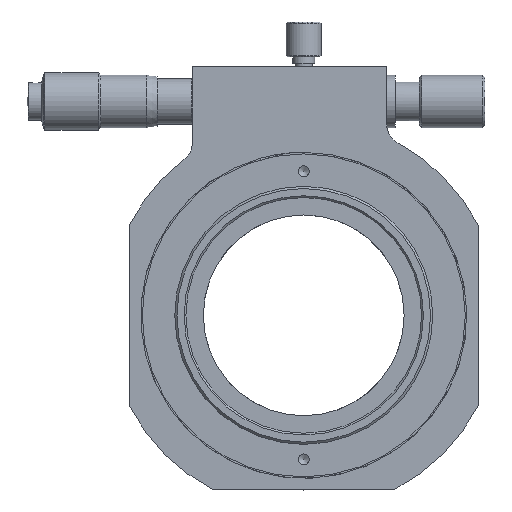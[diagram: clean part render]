
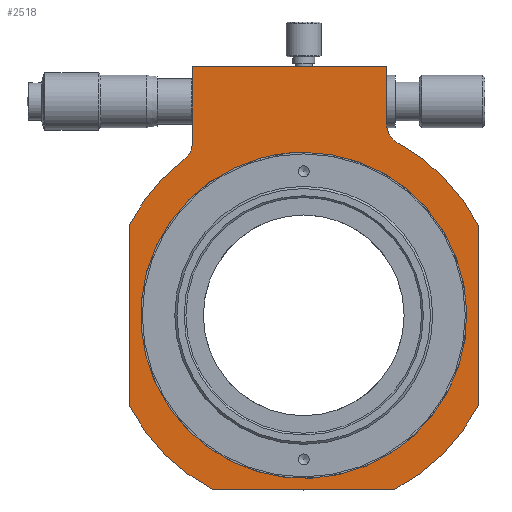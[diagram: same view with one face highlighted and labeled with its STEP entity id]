
A CAD part, left-side view. The second image highlights one B-rep face of the part: STEP entity #2518.
In plain terms, the highlighted planar face has unit normal (-1, 0, 0).
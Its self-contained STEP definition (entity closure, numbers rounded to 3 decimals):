
#260=LINE('',#3939,#424);
#265=LINE('',#3953,#429);
#283=LINE('',#4218,#447);
#286=LINE('',#4240,#450);
#288=LINE('',#4247,#452);
#292=LINE('',#4258,#456);
#424=VECTOR('',#3068,13.137);
#429=VECTOR('',#3079,41.231);
#447=VECTOR('',#3177,41.231);
#450=VECTOR('',#3192,44.5);
#452=VECTOR('',#3200,41.231);
#456=VECTOR('',#3214,17.38);
#608=FACE_BOUND('',#746,.T.);
#609=FACE_BOUND('',#747,.T.);
#746=EDGE_LOOP('',(#1975));
#747=EDGE_LOOP('',(#1976,#1977,#1978,#1979,#1980,#1981,#1982,#1983,#1984,
#1985,#1986,#1987));
#973=CIRCLE('',#2739,37.35);
#982=CIRCLE('',#2751,45.);
#983=CIRCLE('',#2754,45.);
#984=CIRCLE('',#2756,5.);
#986=CIRCLE('',#2760,45.);
#987=CIRCLE('',#2763,45.);
#988=CIRCLE('',#2765,5.);
#1156=VERTEX_POINT('',#3936);
#1157=VERTEX_POINT('',#3938);
#1161=VERTEX_POINT('',#3947);
#1163=VERTEX_POINT('',#3951);
#1192=VERTEX_POINT('',#4184);
#1203=VERTEX_POINT('',#4212);
#1204=VERTEX_POINT('',#4216);
#1205=VERTEX_POINT('',#4220);
#1207=VERTEX_POINT('',#4238);
#1208=VERTEX_POINT('',#4242);
#1209=VERTEX_POINT('',#4246);
#1210=VERTEX_POINT('',#4250);
#1211=VERTEX_POINT('',#4254);
#1462=EDGE_CURVE('',#1156,#1157,#260,.T.);
#1469=EDGE_CURVE('',#1163,#1161,#265,.T.);
#1508=EDGE_CURVE('',#1192,#1192,#973,.T.);
#1523=EDGE_CURVE('',#1203,#1163,#982,.T.);
#1525=EDGE_CURVE('',#1204,#1203,#283,.T.);
#1527=EDGE_CURVE('',#1205,#1204,#983,.T.);
#1529=EDGE_CURVE('',#1157,#1205,#984,.T.);
#1532=EDGE_CURVE('',#1207,#1156,#286,.T.);
#1533=EDGE_CURVE('',#1161,#1208,#986,.T.);
#1535=EDGE_CURVE('',#1208,#1209,#288,.T.);
#1537=EDGE_CURVE('',#1209,#1210,#987,.T.);
#1539=EDGE_CURVE('',#1210,#1211,#988,.T.);
#1541=EDGE_CURVE('',#1211,#1207,#292,.T.);
#1975=ORIENTED_EDGE('',*,*,#1508,.T.);
#1976=ORIENTED_EDGE('',*,*,#1462,.F.);
#1977=ORIENTED_EDGE('',*,*,#1532,.F.);
#1978=ORIENTED_EDGE('',*,*,#1541,.F.);
#1979=ORIENTED_EDGE('',*,*,#1539,.F.);
#1980=ORIENTED_EDGE('',*,*,#1537,.F.);
#1981=ORIENTED_EDGE('',*,*,#1535,.F.);
#1982=ORIENTED_EDGE('',*,*,#1533,.F.);
#1983=ORIENTED_EDGE('',*,*,#1469,.F.);
#1984=ORIENTED_EDGE('',*,*,#1523,.F.);
#1985=ORIENTED_EDGE('',*,*,#1525,.F.);
#1986=ORIENTED_EDGE('',*,*,#1527,.F.);
#1987=ORIENTED_EDGE('',*,*,#1529,.F.);
#2439=PLANE('',#2767);
#2518=ADVANCED_FACE('',(#608,#609),#2439,.F.);
#2739=AXIS2_PLACEMENT_3D('',#4185,#3142,#3143);
#2751=AXIS2_PLACEMENT_3D('',#4214,#3172,#3173);
#2754=AXIS2_PLACEMENT_3D('',#4222,#3181,#3182);
#2756=AXIS2_PLACEMENT_3D('',#4234,#3185,#3186);
#2760=AXIS2_PLACEMENT_3D('',#4243,#3195,#3196);
#2763=AXIS2_PLACEMENT_3D('',#4251,#3204,#3205);
#2765=AXIS2_PLACEMENT_3D('',#4255,#3209,#3210);
#2767=AXIS2_PLACEMENT_3D('',#4259,#3215,#3216);
#3068=DIRECTION('',(0.,0.,-1.));
#3079=DIRECTION('',(0.,1.,0.));
#3142=DIRECTION('center_axis',(1.,0.,0.));
#3143=DIRECTION('ref_axis',(0.,0.,-1.));
#3172=DIRECTION('center_axis',(1.,0.,0.));
#3173=DIRECTION('ref_axis',(0.,0.889,0.458));
#3177=DIRECTION('',(0.,0.,-1.));
#3181=DIRECTION('center_axis',(1.,0.,0.));
#3182=DIRECTION('ref_axis',(0.,0.48,-0.877));
#3185=DIRECTION('center_axis',(-1.,0.,0.));
#3186=DIRECTION('ref_axis',(0.,0.48,-0.877));
#3192=DIRECTION('',(0.,-1.,0.));
#3195=DIRECTION('center_axis',(1.,0.,0.));
#3196=DIRECTION('ref_axis',(0.,-0.458,0.889));
#3200=DIRECTION('',(0.,0.,1.));
#3204=DIRECTION('center_axis',(1.,0.,0.));
#3205=DIRECTION('ref_axis',(0.,-0.889,-0.458));
#3209=DIRECTION('center_axis',(-1.,0.,0.));
#3210=DIRECTION('ref_axis',(0.,-1.,0.));
#3214=DIRECTION('',(0.,0.,1.));
#3215=DIRECTION('center_axis',(1.,0.,0.));
#3216=DIRECTION('ref_axis',(0.,0.,-1.));
#3936=CARTESIAN_POINT('',(-14.,-19.,57.));
#3938=CARTESIAN_POINT('',(-14.,-19.,43.863));
#3939=CARTESIAN_POINT('',(-14.,-19.,43.863));
#3947=CARTESIAN_POINT('',(-14.,20.616,-40.));
#3951=CARTESIAN_POINT('',(-14.,-20.616,-40.));
#3953=CARTESIAN_POINT('',(-14.,20.616,-40.));
#4184=CARTESIAN_POINT('',(-14.,0.,37.35));
#4185=CARTESIAN_POINT('Origin',(-14.,0.,0.));
#4212=CARTESIAN_POINT('',(-14.,-40.,-20.616));
#4214=CARTESIAN_POINT('Origin',(-14.,0.,0.));
#4216=CARTESIAN_POINT('',(-14.,-40.,20.616));
#4218=CARTESIAN_POINT('',(-14.,-40.,-20.616));
#4220=CARTESIAN_POINT('',(-14.,-21.6,39.477));
#4222=CARTESIAN_POINT('Origin',(-14.,0.,0.));
#4234=CARTESIAN_POINT('Origin',(-14.,-24.,43.863));
#4238=CARTESIAN_POINT('',(-14.,25.5,57.));
#4240=CARTESIAN_POINT('',(-14.,-19.,57.));
#4242=CARTESIAN_POINT('',(-14.,40.,-20.616));
#4243=CARTESIAN_POINT('Origin',(-14.,0.,0.));
#4246=CARTESIAN_POINT('',(-14.,40.,20.616));
#4247=CARTESIAN_POINT('',(-14.,40.,20.616));
#4250=CARTESIAN_POINT('',(-14.,27.45,35.658));
#4251=CARTESIAN_POINT('Origin',(-14.,0.,0.));
#4254=CARTESIAN_POINT('',(-14.,25.5,39.62));
#4255=CARTESIAN_POINT('Origin',(-14.,30.5,39.62));
#4258=CARTESIAN_POINT('',(-14.,25.5,57.));
#4259=CARTESIAN_POINT('Origin',(-14.,0.582,7.828));
